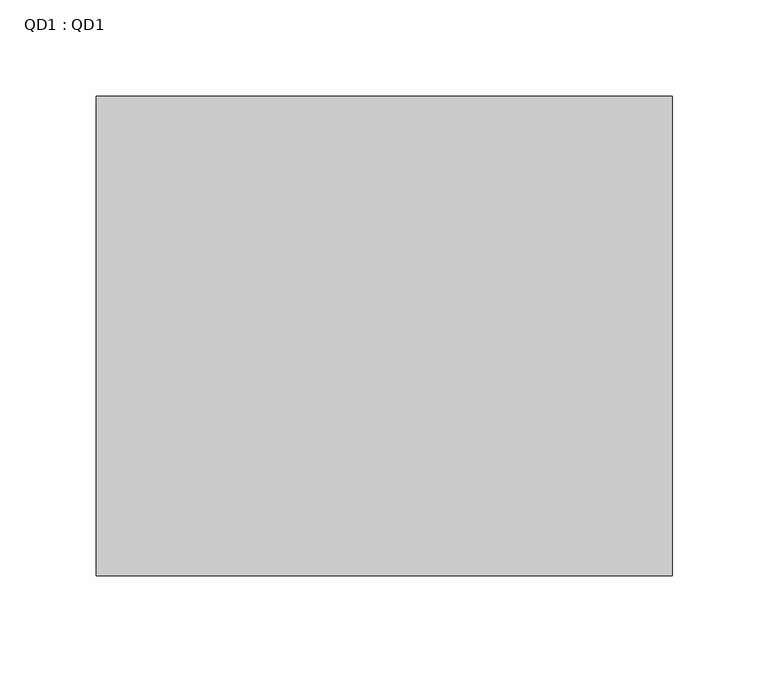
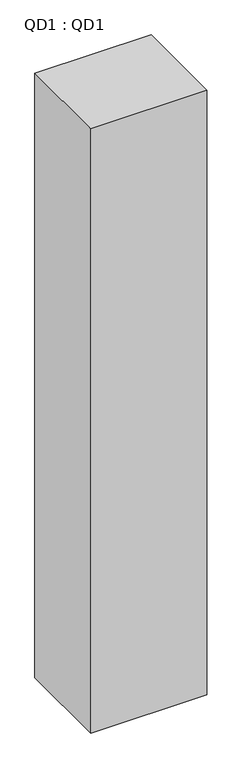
"""IFC4 building model written with IfcOpenShell, lengths in millimetres: proxy geometry, QD1 : QD1."""

from ifc_helpers import new_model, si_unit, frame, origin, place, context, project, spatial, polyline, outline, extrude, source, transform, mapped, element, save


def qd1_qd1_0a800429(model_context):
    return source(origin(), model_context, "Body", "SweptSolid", [
        extrude(outline(polyline([(24053.0, 13072.1), (24053.0, 13322.1), (24353.0, 13322.1), (24353.0, 13072.1), (24053.0, 13072.1)])), frame((0.0, 0.0, -300.0), z_axis=(0.0, 0.0, 1.0), x_axis=(1.0, 0.0, 0.0)), (0.0, 0.0, 1.0), 1650.0),
    ])


if __name__ == "__main__":
    model = new_model("IFC4")
    model_context = context("Model", 3, world=origin())
    ifc_project = project(units=[si_unit("LENGTHUNIT", "METRE", prefix="MILLI")], contexts=[model_context])
    site = spatial("IfcSite", under=ifc_project)
    building = spatial("IfcBuilding", under=site)
    placement = place(None, origin())
    qd1_qd1_shape = qd1_qd1_0a800429(model_context)
    element("IfcBuildingElementProxy", 1, Name="QD1 : QD1", ObjectType="QD1 : QD1", at=placement, inside=building, context=model_context, shape_type="MappedRepresentation", body=[
        mapped(qd1_qd1_shape, transform((0.0, 0.0, 0.0), x_axis=(1.0, 0.0, 0.0), y_axis=(0.0, 1.0, 0.0), z_axis=(0.0, 0.0, 1.0))),
    ])
    save(model, "model.ifc")
